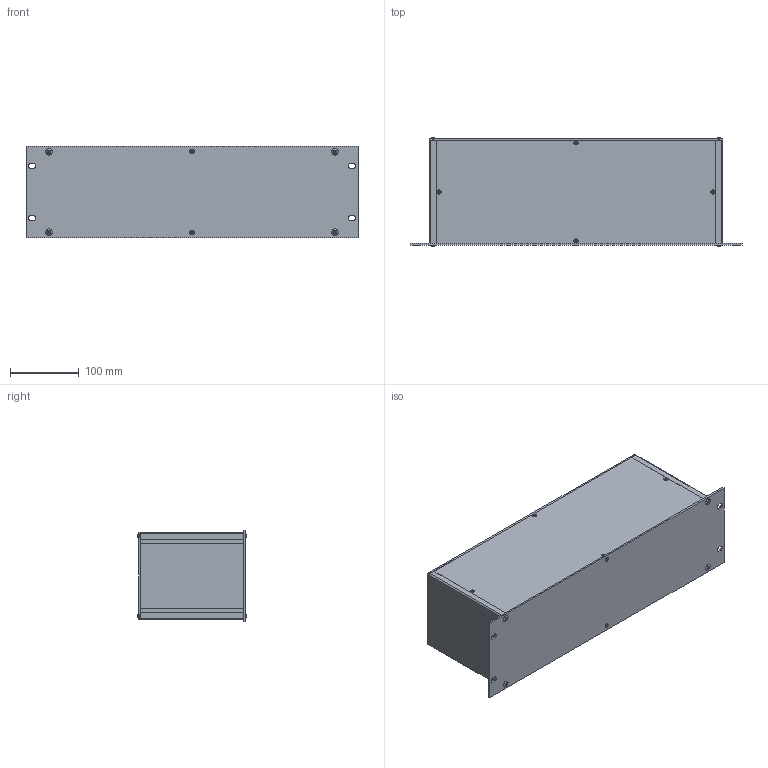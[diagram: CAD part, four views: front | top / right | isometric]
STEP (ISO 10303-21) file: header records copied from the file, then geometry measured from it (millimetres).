
FILE_DESCRIPTION(/* description */ (''),/* implementation_level */ '2;1');
FILE_NAME(/* name */ '//diskstation/Kunden/Gehäuse/Gehäuse/3HE/step/Zoll 3HE Rack Gehäuse Tiefe-150.step',/* time_stamp */ '2022-02-17T15:45:36+01:00',/* author */ (''),/* organization */ (''),/* preprocessor_version */ 'ST-DEVELOPER v18.1',/* originating_system */ 'Autodesk Translation Framework v10.10.0.1391',/* authorisation */ '');
FILE_SCHEMA (('AUTOMOTIVE_DESIGN { 1 0 10303 214 3 1 1 }'));
Length unit declared in the file: millimetre
Products named in the file (28): 3HE Gehäuse mit parametern; Gehäuse; Gehäuseprofil 1 unten links; Gehäuseprofil 2 oben rechts; Gehäuseprofil 1 unten rechts; Gehäuseprofil 2 oben links; Rückplatte; Deckel; Seitenteil links; Seitenteil rechts; Bodenplatte; Montageklotz Front/Deckel; Montageklotz Front/Boden; Montageklotz Rück/Deckel; Montageklotz Rück/Boden; Gewindestreifen; Frontplatte; Schrauben M5; Schraube Front; Schraube Front (1); Schraube Front (2); Schraube Front (3); Schraube Rück (1); Schraube Rück; Schraube Rück (2); Schraube Rück (3); Schrauben M3; HI_Senkschraube DIN 965 A v2 M3x5 24677.030.005(High)
Assembly tree (37 placements, depth 3):
  3HE Gehäuse mit parametern
    Gehäuse
      Gehäuseprofil 1 unten links
      Gehäuseprofil 2 oben rechts
      Gehäuseprofil 1 unten rechts
      Gehäuseprofil 2 oben links
      Rückplatte
      Deckel
      Seitenteil links
      Seitenteil rechts
      Bodenplatte
      Montageklotz Front/Deckel
      Montageklotz Front/Boden
      Montageklotz Rück/Deckel
      Montageklotz Rück/Boden
      Gewindestreifen  x2
    Frontplatte
    Schrauben M5
      Schraube Front
      Schraube Front (1)
      Schraube Front (2)
      Schraube Front (3)
      Schraube Rück (1)
      Schraube Rück
      Schraube Rück (2)
      Schraube Rück (3)
    Schrauben M3
      HI_Senkschraube DIN 965 A v2 M3x5 24677.030.005(High)  x10
Bounding box: 483 x 158.2 x 132.5 mm (x, y, z)
Volume: 712775.8 mm3; surface area: 624317.3 mm2
Topology: 34 solids, 34 shells, 822 faces, 1980 edges, 1226 vertices
Faces by surface type: plane 346, cylinder 296, cone 164, torus 8, bspline 8
Full cylindrical faces by diameter (mm): 2.529 x50, 3 x10, 3.2 x10, 4.234 x40, 5 x8, 5.2 x4, 5.3 x8, 5.6 x10, 9.5 x8
Entity records: 16201 total; most frequent: CARTESIAN_POINT 2982, DIRECTION 2704, ORIENTED_EDGE 2394, EDGE_CURVE 1197, AXIS2_PLACEMENT_3D 1008, VERTEX_POINT 746, LINE 688, VECTOR 688
